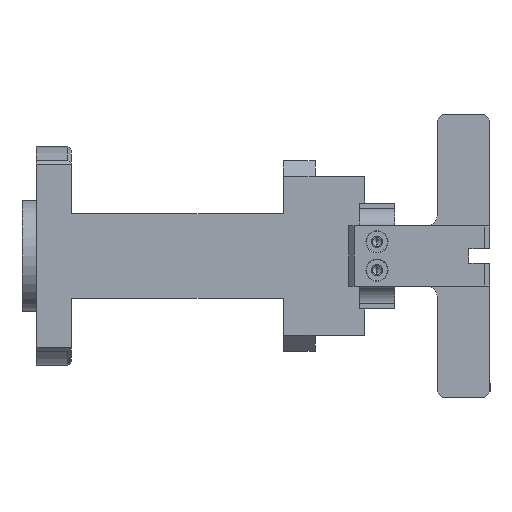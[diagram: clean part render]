
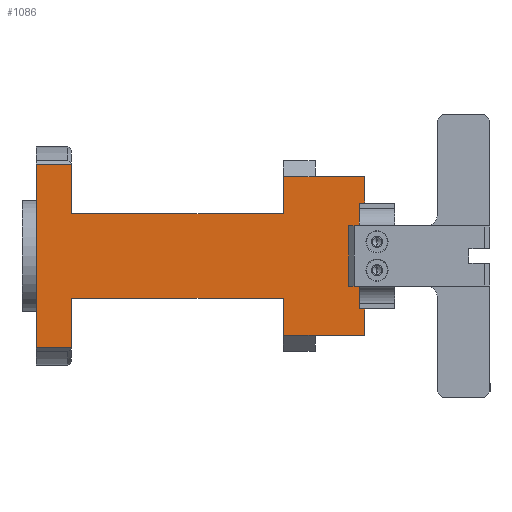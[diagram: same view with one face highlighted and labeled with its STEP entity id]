
A CAD part, left-side view. The second image highlights one B-rep face of the part: STEP entity #1086.
In plain terms, the highlighted planar face has unit normal (-1, 0, 0).
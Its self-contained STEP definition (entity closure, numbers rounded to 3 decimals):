
#11 = CARTESIAN_POINT ( 'NONE',  ( -46.5, -27.75, 12. ) ) ;
#17 = DIRECTION ( 'NONE',  ( 0., -1., 0. ) ) ;
#97 = CARTESIAN_POINT ( 'NONE',  ( -46.5, -42.25, -22.5 ) ) ;
#105 = EDGE_CURVE ( 'NONE', #1600, #1400, #2308, .T. ) ;
#126 = VERTEX_POINT ( 'NONE', #1500 ) ;
#142 = EDGE_CURVE ( 'NONE', #3595, #3897, #320, .T. ) ;
#145 = VERTEX_POINT ( 'NONE', #4025 ) ;
#153 = VECTOR ( 'NONE', #4372, 1000. ) ;
#173 = DIRECTION ( 'NONE',  ( 0., 0., 1. ) ) ;
#238 = CARTESIAN_POINT ( 'NONE',  ( -46.5, -27.75, -12. ) ) ;
#267 = VECTOR ( 'NONE', #2223, 1000. ) ;
#289 = CARTESIAN_POINT ( 'NONE',  ( -46.5, 32.25, -26. ) ) ;
#320 = LINE ( 'NONE', #1912, #3392 ) ;
#346 = LINE ( 'NONE', #1608, #4368 ) ;
#402 = EDGE_CURVE ( 'NONE', #4003, #4159, #4772, .T. ) ;
#417 = LINE ( 'NONE', #2911, #753 ) ;
#437 = DIRECTION ( 'NONE',  ( 1., 0., 0. ) ) ;
#512 = ORIENTED_EDGE ( 'NONE', *, *, #3695, .T. ) ;
#571 = ORIENTED_EDGE ( 'NONE', *, *, #4163, .T. ) ;
#578 = CARTESIAN_POINT ( 'NONE',  ( -46.5, -49.25, -15. ) ) ;
#600 = CARTESIAN_POINT ( 'NONE',  ( -46.5, 42.25, -26. ) ) ;
#626 = AXIS2_PLACEMENT_3D ( 'NONE', #5083, #437, #1295 ) ;
#628 = CARTESIAN_POINT ( 'NONE',  ( -46.5, 42.25, 22.5 ) ) ;
#654 = CARTESIAN_POINT ( 'NONE',  ( -46.5, 32.25, -12. ) ) ;
#656 = CARTESIAN_POINT ( 'NONE',  ( -46.5, -50.75, 22.5 ) ) ;
#753 = VECTOR ( 'NONE', #2095, 1000. ) ;
#776 = EDGE_CURVE ( 'NONE', #1945, #1900, #346, .T. ) ;
#830 = LINE ( 'NONE', #578, #153 ) ;
#836 = LINE ( 'NONE', #11, #3846 ) ;
#843 = VECTOR ( 'NONE', #1896, 1000. ) ;
#987 = DIRECTION ( 'NONE',  ( 0., -1., 0. ) ) ;
#1027 = VECTOR ( 'NONE', #1450, 1000. ) ;
#1031 = CARTESIAN_POINT ( 'NONE',  ( -46.5, 32.25, 26. ) ) ;
#1070 = LINE ( 'NONE', #238, #2322 ) ;
#1086 = ADVANCED_FACE ( 'NONE', ( #3413 ), #2996, .F. ) ;
#1103 = VERTEX_POINT ( 'NONE', #2062 ) ;
#1107 = LINE ( 'NONE', #1841, #843 ) ;
#1127 = CARTESIAN_POINT ( 'NONE',  ( -46.5, -36.75, -22.5 ) ) ;
#1240 = VERTEX_POINT ( 'NONE', #600 ) ;
#1288 = EDGE_CURVE ( 'NONE', #2435, #4557, #4443, .T. ) ;
#1295 = DIRECTION ( 'NONE',  ( 0., 1., 0. ) ) ;
#1340 = VECTOR ( 'NONE', #3180, 1000. ) ;
#1358 = CARTESIAN_POINT ( 'NONE',  ( -46.5, 42.25, 26. ) ) ;
#1377 = VERTEX_POINT ( 'NONE', #1531 ) ;
#1400 = VERTEX_POINT ( 'NONE', #289 ) ;
#1419 = CARTESIAN_POINT ( 'NONE',  ( -46.5, -27.75, 12. ) ) ;
#1450 = DIRECTION ( 'NONE',  ( 0., 0., -1. ) ) ;
#1500 = CARTESIAN_POINT ( 'NONE',  ( -46.5, 32.25, 12. ) ) ;
#1519 = VERTEX_POINT ( 'NONE', #2290 ) ;
#1531 = CARTESIAN_POINT ( 'NONE',  ( -46.5, -49.25, 15. ) ) ;
#1533 = DIRECTION ( 'NONE',  ( 0., -1., 0. ) ) ;
#1600 = VERTEX_POINT ( 'NONE', #3275 ) ;
#1608 = CARTESIAN_POINT ( 'NONE',  ( -46.5, -42.25, 22.5 ) ) ;
#1610 = VECTOR ( 'NONE', #1533, 1000. ) ;
#1641 = ORIENTED_EDGE ( 'NONE', *, *, #1950, .T. ) ;
#1830 = LINE ( 'NONE', #3948, #4681 ) ;
#1841 = CARTESIAN_POINT ( 'NONE',  ( -46.5, 32.25, 12. ) ) ;
#1896 = DIRECTION ( 'NONE',  ( 0., 0., 1. ) ) ;
#1900 = VERTEX_POINT ( 'NONE', #656 ) ;
#1907 = VECTOR ( 'NONE', #4147, 1000. ) ;
#1910 = ORIENTED_EDGE ( 'NONE', *, *, #142, .T. ) ;
#1912 = CARTESIAN_POINT ( 'NONE',  ( -46.5, -42.25, 26. ) ) ;
#1914 = EDGE_CURVE ( 'NONE', #3897, #1240, #2682, .T. ) ;
#1945 = VERTEX_POINT ( 'NONE', #2254 ) ;
#1950 = EDGE_CURVE ( 'NONE', #1377, #1519, #1830, .T. ) ;
#2062 = CARTESIAN_POINT ( 'NONE',  ( -46.5, -50.75, -15. ) ) ;
#2075 = CARTESIAN_POINT ( 'NONE',  ( -46.5, -27.75, -12. ) ) ;
#2095 = DIRECTION ( 'NONE',  ( 0., 0., 1. ) ) ;
#2116 = ORIENTED_EDGE ( 'NONE', *, *, #3119, .F. ) ;
#2141 = VECTOR ( 'NONE', #5098, 1000. ) ;
#2187 = CARTESIAN_POINT ( 'NONE',  ( -46.5, -36.75, -22.5 ) ) ;
#2223 = DIRECTION ( 'NONE',  ( 0., 0., 1. ) ) ;
#2254 = CARTESIAN_POINT ( 'NONE',  ( -46.5, -36.75, 22.5 ) ) ;
#2290 = CARTESIAN_POINT ( 'NONE',  ( -46.5, -50.75, 15. ) ) ;
#2308 = LINE ( 'NONE', #654, #1340 ) ;
#2310 = VECTOR ( 'NONE', #3941, 1000. ) ;
#2322 = VECTOR ( 'NONE', #2765, 1000. ) ;
#2435 = VERTEX_POINT ( 'NONE', #3795 ) ;
#2441 = DIRECTION ( 'NONE',  ( 0., 1., 0. ) ) ;
#2682 = LINE ( 'NONE', #628, #1027 ) ;
#2765 = DIRECTION ( 'NONE',  ( 0., 1., 0. ) ) ;
#2817 = DIRECTION ( 'NONE',  ( 0., 1., 0. ) ) ;
#2834 = ORIENTED_EDGE ( 'NONE', *, *, #1288, .F. ) ;
#2911 = CARTESIAN_POINT ( 'NONE',  ( -46.5, -50.75, 22.5 ) ) ;
#2932 = CARTESIAN_POINT ( 'NONE',  ( -46.5, -49.25, -15. ) ) ;
#2996 = PLANE ( 'NONE',  #626 ) ;
#3115 = VERTEX_POINT ( 'NONE', #3157 ) ;
#3118 = CARTESIAN_POINT ( 'NONE',  ( -46.5, -50.75, 22.5 ) ) ;
#3119 = EDGE_CURVE ( 'NONE', #3115, #1600, #1070, .T. ) ;
#3150 = EDGE_CURVE ( 'NONE', #145, #4003, #4943, .T. ) ;
#3157 = CARTESIAN_POINT ( 'NONE',  ( -46.5, -27.75, -12. ) ) ;
#3180 = DIRECTION ( 'NONE',  ( 0., 0., -1. ) ) ;
#3222 = ORIENTED_EDGE ( 'NONE', *, *, #5303, .F. ) ;
#3275 = CARTESIAN_POINT ( 'NONE',  ( -46.5, 32.25, -12. ) ) ;
#3282 = ORIENTED_EDGE ( 'NONE', *, *, #402, .T. ) ;
#3372 = ORIENTED_EDGE ( 'NONE', *, *, #105, .F. ) ;
#3392 = VECTOR ( 'NONE', #2817, 1000. ) ;
#3413 = FACE_OUTER_BOUND ( 'NONE', #4298, .T. ) ;
#3575 = VECTOR ( 'NONE', #2441, 1000. ) ;
#3585 = ORIENTED_EDGE ( 'NONE', *, *, #3669, .T. ) ;
#3595 = VERTEX_POINT ( 'NONE', #1031 ) ;
#3669 = EDGE_CURVE ( 'NONE', #3115, #145, #3709, .T. ) ;
#3695 = EDGE_CURVE ( 'NONE', #1945, #4557, #3796, .T. ) ;
#3709 = LINE ( 'NONE', #2075, #2141 ) ;
#3768 = DIRECTION ( 'NONE',  ( 0., 1., 0. ) ) ;
#3783 = EDGE_CURVE ( 'NONE', #1240, #1400, #5066, .T. ) ;
#3789 = LINE ( 'NONE', #4264, #1907 ) ;
#3795 = CARTESIAN_POINT ( 'NONE',  ( -46.5, -27.75, 12. ) ) ;
#3796 = LINE ( 'NONE', #4598, #3575 ) ;
#3817 = EDGE_CURVE ( 'NONE', #2435, #126, #836, .T. ) ;
#3823 = ORIENTED_EDGE ( 'NONE', *, *, #3783, .T. ) ;
#3833 = ORIENTED_EDGE ( 'NONE', *, *, #3150, .T. ) ;
#3846 = VECTOR ( 'NONE', #3768, 1000. ) ;
#3897 = VERTEX_POINT ( 'NONE', #1358 ) ;
#3936 = VECTOR ( 'NONE', #5483, 1000. ) ;
#3941 = DIRECTION ( 'NONE',  ( 0., -1., 0. ) ) ;
#3948 = CARTESIAN_POINT ( 'NONE',  ( -46.5, -49.25, 15. ) ) ;
#3994 = LINE ( 'NONE', #3118, #4325 ) ;
#4003 = VERTEX_POINT ( 'NONE', #2187 ) ;
#4015 = EDGE_CURVE ( 'NONE', #126, #3595, #1107, .T. ) ;
#4025 = CARTESIAN_POINT ( 'NONE',  ( -46.5, -27.75, -22.5 ) ) ;
#4147 = DIRECTION ( 'NONE',  ( 0., -1., 0. ) ) ;
#4159 = VERTEX_POINT ( 'NONE', #4647 ) ;
#4163 = EDGE_CURVE ( 'NONE', #1519, #1900, #417, .T. ) ;
#4238 = ORIENTED_EDGE ( 'NONE', *, *, #3817, .T. ) ;
#4264 = CARTESIAN_POINT ( 'NONE',  ( -46.5, -49.25, -15. ) ) ;
#4298 = EDGE_LOOP ( 'NONE', ( #5352, #1910, #5130, #3823, #3372, #2116, #3585, #3833, #3282, #4373, #3222, #5122, #1641, #571, #4810, #512, #2834, #4238 ) ) ;
#4325 = VECTOR ( 'NONE', #173, 1000. ) ;
#4368 = VECTOR ( 'NONE', #17, 1000. ) ;
#4372 = DIRECTION ( 'NONE',  ( 0., 0., 1. ) ) ;
#4373 = ORIENTED_EDGE ( 'NONE', *, *, #4671, .T. ) ;
#4443 = LINE ( 'NONE', #1419, #267 ) ;
#4543 = VERTEX_POINT ( 'NONE', #2932 ) ;
#4557 = VERTEX_POINT ( 'NONE', #4969 ) ;
#4598 = CARTESIAN_POINT ( 'NONE',  ( -46.5, -42.25, 22.5 ) ) ;
#4647 = CARTESIAN_POINT ( 'NONE',  ( -46.5, -50.75, -22.5 ) ) ;
#4671 = EDGE_CURVE ( 'NONE', #4159, #1103, #3994, .T. ) ;
#4681 = VECTOR ( 'NONE', #987, 1000. ) ;
#4772 = LINE ( 'NONE', #97, #2310 ) ;
#4810 = ORIENTED_EDGE ( 'NONE', *, *, #776, .F. ) ;
#4943 = LINE ( 'NONE', #1127, #1610 ) ;
#4969 = CARTESIAN_POINT ( 'NONE',  ( -46.5, -27.75, 22.5 ) ) ;
#5066 = LINE ( 'NONE', #5424, #3936 ) ;
#5083 = CARTESIAN_POINT ( 'NONE',  ( -46.5, -42.25, 22.5 ) ) ;
#5098 = DIRECTION ( 'NONE',  ( 0., 0., -1. ) ) ;
#5122 = ORIENTED_EDGE ( 'NONE', *, *, #5399, .T. ) ;
#5130 = ORIENTED_EDGE ( 'NONE', *, *, #1914, .T. ) ;
#5303 = EDGE_CURVE ( 'NONE', #4543, #1103, #3789, .T. ) ;
#5352 = ORIENTED_EDGE ( 'NONE', *, *, #4015, .T. ) ;
#5399 = EDGE_CURVE ( 'NONE', #4543, #1377, #830, .T. ) ;
#5424 = CARTESIAN_POINT ( 'NONE',  ( -46.5, 32.25, -26. ) ) ;
#5483 = DIRECTION ( 'NONE',  ( 0., -1., 0. ) ) ;
